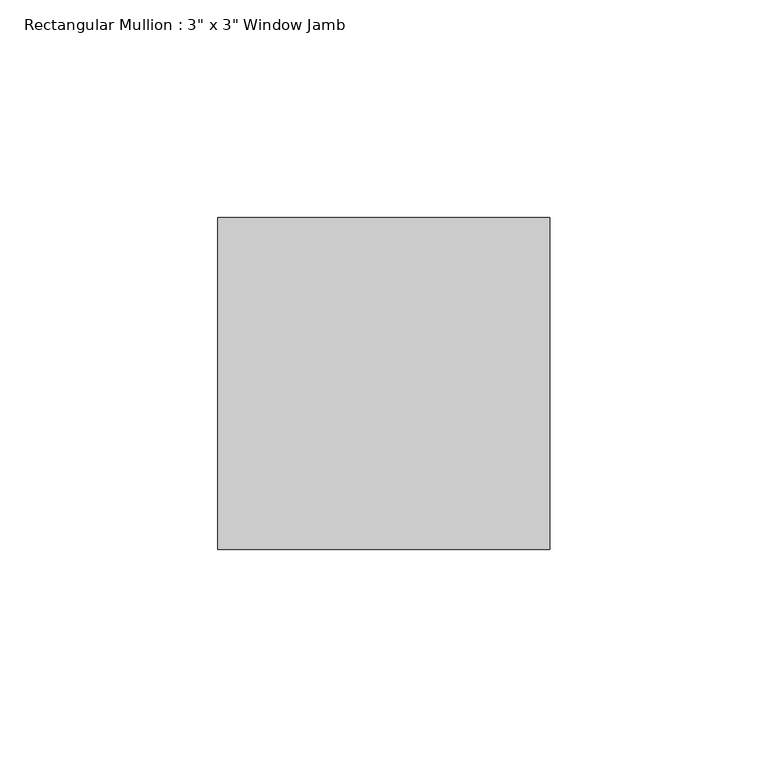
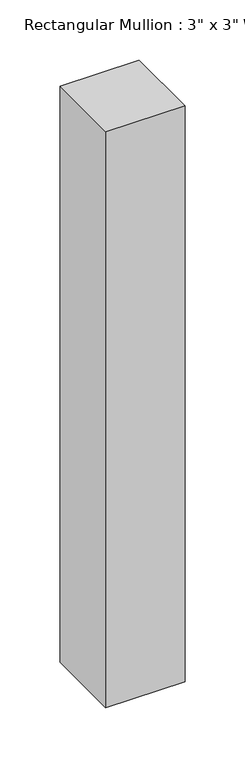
"""IFC4 building model written with IfcOpenShell, lengths in millimetres: member geometry."""

from ifc_helpers import new_model, si_unit, frame, origin, place, context, project, spatial, polyline, outline, extrude, source, transform, mapped, element, save


def member_32b4be1d(model_context):
    return source(origin(), model_context, "Body", "SweptSolid", [
        extrude(outline(polyline([(0.0, 50.8), (0.0, -25.4), (-76.2, -25.4), (-76.2, 50.8), (0.0, 50.8)])), frame((0.0, 0.0, -584.8809657), z_axis=(0.0, 0.0, 1.0), x_axis=(1.0, 0.0, 0.0)), (0.0, 0.0, 1.0), 584.8809657),
    ])


if __name__ == "__main__":
    model = new_model("IFC4")
    model_context = context("Model", 3, world=origin())
    ifc_project = project(units=[si_unit("LENGTHUNIT", "METRE", prefix="MILLI")], contexts=[model_context])
    site = spatial("IfcSite", under=ifc_project)
    building = spatial("IfcBuilding", under=site)
    placement = place(None, origin())
    member_shape = member_32b4be1d(model_context)
    element("IfcMember", 1, ObjectType="Rectangular Mullion : 3\" x 3\" Window Jamb", at=placement, inside=building, context=model_context, shape_type="MappedRepresentation", body=[
        mapped(member_shape, transform((0.0, 0.0, 0.0), x_axis=(1.0, 0.0, 0.0), y_axis=(0.0, 1.0, 0.0), z_axis=(0.0, 0.0, 1.0))),
    ])
    save(model, "model.ifc")
